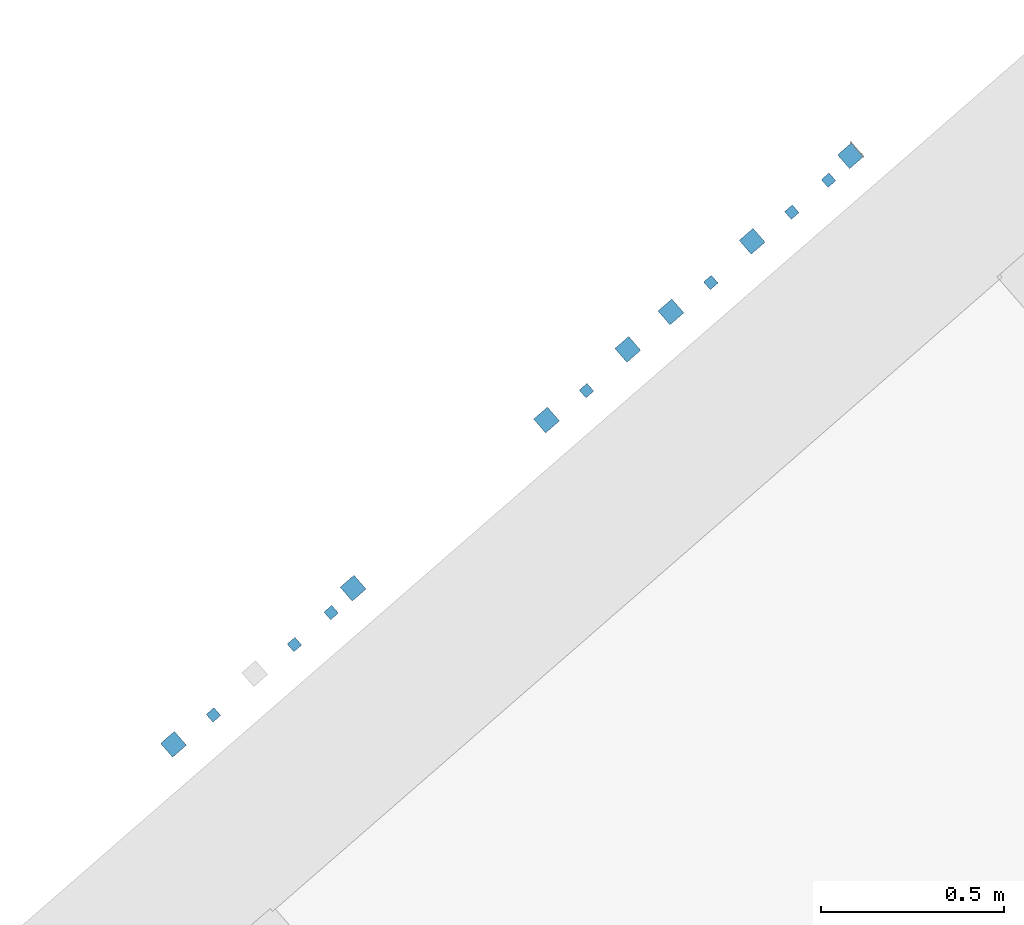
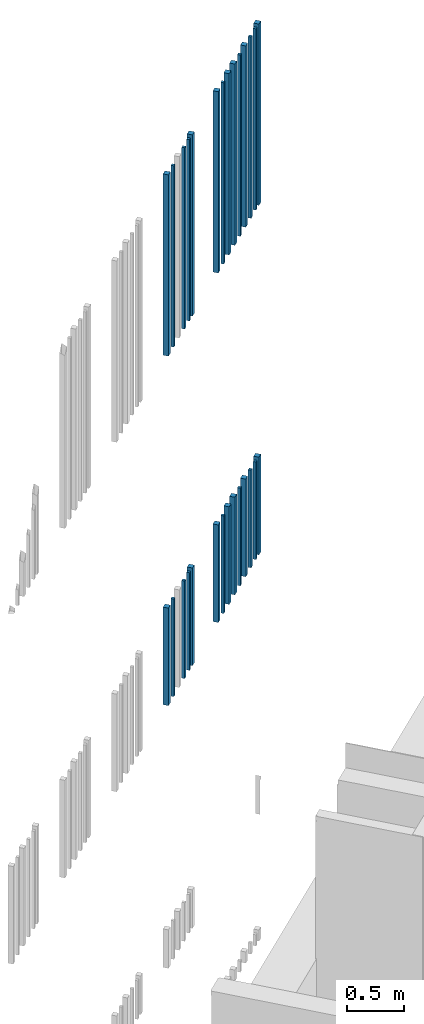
# One storey, part 80 of 124: 28 walls.
"""IFC2X3 building model written with IfcOpenShell, lengths in millimetres."""

from ifc_helpers import new_model, entity, si_unit, converted_unit, derived_unit, money_unit, direction, frame, origin_with_axes, place, context, subcontext, project, spatial, faceted_brep, material, type_object, element, save


model = new_model("IFC2X3")

# Units and contexts
model_context = context("Model", 3, precision=1e-05, world=origin_with_axes(), true_north=direction((0.0, 1.0)))
body_context = subcontext(model_context, "Body", "Model", "MODEL_VIEW")
ifc_project = project(units=[si_unit("LENGTHUNIT", "METRE", prefix="MILLI"), si_unit("AREAUNIT", "SQUARE_METRE"), si_unit("VOLUMEUNIT", "CUBIC_METRE"), converted_unit("PLANEANGLEUNIT", "DEGREE", entity("IfcPlaneAngleMeasure", 0.0174532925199), si_unit("PLANEANGLEUNIT", "RADIAN"), dimensions=[0, 0, 0, 0, 0, 0, 0]), si_unit("SOLIDANGLEUNIT", "STERADIAN"), money_unit("EUR"), converted_unit("TIMEUNIT", "Year", entity("IfcTimeMeasure", 31556926.0), si_unit("TIMEUNIT", "SECOND"), dimensions=[0, 0, 1, 0, 0, 0, 0]), si_unit("MASSUNIT", "GRAM", prefix="KILO"), si_unit("THERMODYNAMICTEMPERATUREUNIT", "DEGREE_CELSIUS"), si_unit("LUMINOUSINTENSITYUNIT", "LUMEN"), si_unit("ENERGYUNIT", "JOULE", prefix="MEGA"), derived_unit("THERMALCONDUCTANCEUNIT", [(si_unit("POWERUNIT", "WATT"), 1), (si_unit("LENGTHUNIT", "METRE"), -1), (si_unit("THERMODYNAMICTEMPERATUREUNIT", "KELVIN"), -1)]), derived_unit("SPECIFICHEATCAPACITYUNIT", [(si_unit("ENERGYUNIT", "JOULE"), 1), (si_unit("MASSUNIT", "GRAM", prefix="KILO"), -1), (si_unit("THERMODYNAMICTEMPERATUREUNIT", "KELVIN"), -1)]), derived_unit("MASSDENSITYUNIT", [(si_unit("MASSUNIT", "GRAM", prefix="KILO"), 1), (si_unit("VOLUMEUNIT", "CUBIC_METRE"), -1)])], contexts=[model_context])

# Site, building, storey
site_placement = place(None, origin_with_axes())
site = spatial("IfcSite", under=ifc_project, at=site_placement, Name="Site", CompositionType="ELEMENT")
building_placement = place(site_placement, origin_with_axes())
building = spatial("IfcBuilding", under=site, at=building_placement, Name="Building", CompositionType="ELEMENT")
storey_placement = place(building_placement, frame((0.0, 0.0, -1615.0), z_axis=(0.0, 0.0, 1.0), x_axis=(1.0, 0.0, 0.0)))
storey = spatial("IfcBuildingStorey", under=building, at=storey_placement, Name="0  korrus", CompositionType="ELEMENT", Elevation=-1615.0)

# Walls
ifc_material = material(Name="Site specified")
wall_type = type_object("IfcWallType", Name="Puitfassaadi ribistik", PredefinedType="NOTDEFINED")
wall_1_placement = place(storey_placement, frame((159367.600758, 108572.557568, 9530.0), z_axis=(0.0, 0.0, 1.0), x_axis=(0.754709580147, 0.656059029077, 0.0)))
element("IfcWall", 1, at=wall_1_placement, inside=storey, type_object=wall_type, material=ifc_material, Name="Site specified", context=body_context, shape_type="Brep", body=[
    faceted_brep([(25.0, 25.0, 1950.0), (25.0, 25.0, 0.0), (-25.0, 25.0, 0.0), (-25.0, 25.0, 1950.0), (25.0, -25.0, 1950.0), (25.0, -25.0, 0.0), (-25.0, -25.0, 0.0), (-25.0, -25.0, 1950.0)], [[[0, 1, 2, 3]], [[4, 5, 1, 0]], [[2, 1, 5, 6]], [[3, 2, 6, 7]], [[4, 0, 3, 7]], [[7, 6, 5, 4]]]),
])
for number, where, z_axis, x_axis, name in (
    (2, (159207.269489, 108418.608579, 9530.0), (0.0, 0.0, 1.0), (0.754709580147, 0.656059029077, 0.0), "Site specified"),
    (3, (159307.645862, 108505.864429, 9530.0), (0.0, 0.0, 1.0), (0.754709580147, 0.656059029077, 0.0), "Site specified"),
):
    element("IfcWall", number, at=place(storey_placement, frame(where, z_axis=z_axis, x_axis=x_axis)), inside=storey, type_object=wall_type, material=ifc_material, Name=name, context=body_context, shape_type="Brep", body=[
        faceted_brep([(14.0, 14.0, 1950.0), (14.0, 14.0, 0.0), (-14.0, 14.0, 0.0), (-14.0, 14.0, 1950.0), (14.0, -14.0, 1950.0), (14.0, -14.0, 0.0), (-14.0, -14.0, 0.0), (-14.0, -14.0, 1950.0)], [[[0, 1, 2, 3]], [[4, 5, 1, 0]], [[2, 1, 5, 6]], [[3, 2, 6, 7]], [[4, 0, 3, 7]], [[7, 6, 5, 4]]]),
    ])
wall_2_placement = place(storey_placement, frame((158986.139604, 108226.383302, 5771.0), z_axis=(0.0, 0.0, 1.0), x_axis=(0.754709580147, 0.656059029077, 0.0)))
element("IfcWall", 4, at=wall_2_placement, inside=storey, type_object=wall_type, material=ifc_material, Name="Site specified", context=body_context, shape_type="Brep", body=[
    faceted_brep([(14.0, 14.0, 1050.0), (14.0, 14.0, 0.0), (-14.0, 14.0, 0.0), (-14.0, 14.0, 1050.0), (14.0, -14.0, 1050.0), (14.0, -14.0, 0.0), (-14.0, -14.0, 0.0), (-14.0, -14.0, 1050.0)], [[[0, 1, 2, 3]], [[4, 5, 1, 0]], [[2, 1, 5, 6]], [[3, 2, 6, 7]], [[4, 0, 3, 7]], [[7, 6, 5, 4]]]),
])
wall_3_placement = place(storey_placement, frame((159367.600758, 108572.557568, 5771.0), z_axis=(0.0, 0.0, 1.0), x_axis=(0.754709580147, 0.656059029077, 0.0)))
element("IfcWall", 5, at=wall_3_placement, inside=storey, type_object=wall_type, material=ifc_material, Name="Site specified", context=body_context, shape_type="Brep", body=[
    faceted_brep([(25.0, 25.0, 1050.0), (25.0, 25.0, 0.0), (-25.0, 25.0, 0.0), (-25.0, 25.0, 1050.0), (25.0, -25.0, 1050.0), (25.0, -25.0, 0.0), (-25.0, -25.0, 0.0), (-25.0, -25.0, 1050.0)], [[[0, 1, 2, 3]], [[4, 5, 1, 0]], [[2, 1, 5, 6]], [[3, 2, 6, 7]], [[4, 0, 3, 7]], [[7, 6, 5, 4]]]),
])
wall_4_placement = place(storey_placement, frame((159207.269489, 108418.608579, 5771.0), z_axis=(0.0, 0.0, 1.0), x_axis=(0.754709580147, 0.656059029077, 0.0)))
element("IfcWall", 6, at=wall_4_placement, inside=storey, type_object=wall_type, material=ifc_material, Name="Site specified", context=body_context, shape_type="Brep", body=[
    faceted_brep([(14.0, 14.0, 1050.0), (14.0, 14.0, 0.0), (-14.0, 14.0, 0.0), (-14.0, 14.0, 1050.0), (14.0, -14.0, 1050.0), (14.0, -14.0, 0.0), (-14.0, -14.0, 0.0), (-14.0, -14.0, 1050.0)], [[[0, 1, 2, 3]], [[4, 5, 1, 0]], [[2, 1, 5, 6]], [[3, 2, 6, 7]], [[4, 0, 3, 7]], [[7, 6, 5, 4]]]),
])
wall_5_placement = place(storey_placement, frame((158877.035281, 108146.115505, 5771.0), z_axis=(0.0, 0.0, 1.0), x_axis=(0.754709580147, 0.656059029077, 0.0)))
element("IfcWall", 7, at=wall_5_placement, inside=storey, type_object=wall_type, material=ifc_material, Name="Site specified", context=body_context, shape_type="Brep", body=[
    faceted_brep([(25.0, 25.0, 1050.0), (25.0, 25.0, 0.0), (-25.0, 25.0, 0.0), (-25.0, 25.0, 1050.0), (25.0, -25.0, 1050.0), (25.0, -25.0, 0.0), (-25.0, -25.0, 0.0), (-25.0, -25.0, 1050.0)], [[[0, 1, 2, 3]], [[4, 5, 1, 0]], [[2, 1, 5, 6]], [[3, 2, 6, 7]], [[4, 0, 3, 7]], [[7, 6, 5, 4]]]),
])
wall_6_placement = place(storey_placement, frame((158877.035281, 108146.115505, 9530.0), z_axis=(0.0, 0.0, 1.0), x_axis=(0.754709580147, 0.656059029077, 0.0)))
element("IfcWall", 8, at=wall_6_placement, inside=storey, type_object=wall_type, material=ifc_material, Name="Site specified", context=body_context, shape_type="Brep", body=[
    faceted_brep([(25.0, 25.0, 1950.0), (25.0, 25.0, 0.0), (-25.0, 25.0, 0.0), (-25.0, 25.0, 1950.0), (25.0, -25.0, 1950.0), (25.0, -25.0, 0.0), (-25.0, -25.0, 0.0), (-25.0, -25.0, 1950.0)], [[[0, 1, 2, 3]], [[4, 5, 1, 0]], [[2, 1, 5, 6]], [[3, 2, 6, 7]], [[4, 0, 3, 7]], [[7, 6, 5, 4]]]),
])
wall_7_placement = place(storey_placement, frame((158986.139604, 108226.383302, 9530.0), z_axis=(0.0, 0.0, 1.0), x_axis=(0.754709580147, 0.656059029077, 0.0)))
element("IfcWall", 9, at=wall_7_placement, inside=storey, type_object=wall_type, material=ifc_material, Name="Site specified", context=body_context, shape_type="Brep", body=[
    faceted_brep([(14.0, 14.0, 1950.0), (14.0, 14.0, 0.0), (-14.0, 14.0, 0.0), (-14.0, 14.0, 1950.0), (14.0, -14.0, 1950.0), (14.0, -14.0, 0.0), (-14.0, -14.0, 0.0), (-14.0, -14.0, 1950.0)], [[[0, 1, 2, 3]], [[4, 5, 1, 0]], [[2, 1, 5, 6]], [[3, 2, 6, 7]], [[4, 0, 3, 7]], [[7, 6, 5, 4]]]),
])
wall_8_placement = place(storey_placement, frame((159307.645862, 108505.864429, 5771.0), z_axis=(0.0, 0.0, 1.0), x_axis=(0.754709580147, 0.656059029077, 0.0)))
element("IfcWall", 10, at=wall_8_placement, inside=storey, type_object=wall_type, material=ifc_material, Name="Site specified", context=body_context, shape_type="Brep", body=[
    faceted_brep([(14.0, 14.0, 1050.0), (14.0, 14.0, 0.0), (-14.0, 14.0, 0.0), (-14.0, 14.0, 1050.0), (14.0, -14.0, 1050.0), (14.0, -14.0, 0.0), (-14.0, -14.0, 0.0), (-14.0, -14.0, 1050.0)], [[[0, 1, 2, 3]], [[4, 5, 1, 0]], [[2, 1, 5, 6]], [[3, 2, 6, 7]], [[4, 0, 3, 7]], [[7, 6, 5, 4]]]),
])
wall_9_placement = place(storey_placement, frame((159098.919896, 108338.996858, 5771.0), z_axis=(0.0, 0.0, 1.0), x_axis=(0.754709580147, 0.656059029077, 0.0)))
element("IfcWall", 11, at=wall_9_placement, inside=storey, type_object=wall_type, material=ifc_material, Name="Site specified", context=body_context, shape_type="Brep", body=[
    faceted_brep([(25.0, 25.0, 1050.0), (25.0, 25.0, 0.0), (-25.0, 25.0, 0.0), (-25.0, 25.0, 1050.0), (25.0, -25.0, 1050.0), (25.0, -25.0, 0.0), (-25.0, -25.0, 0.0), (-25.0, -25.0, 1050.0)], [[[0, 1, 2, 3]], [[4, 5, 1, 0]], [[2, 1, 5, 6]], [[3, 2, 6, 7]], [[4, 0, 3, 7]], [[7, 6, 5, 4]]]),
])
wall_10_placement = place(storey_placement, frame((157627.662113, 107045.476836, 9530.0), z_axis=(0.0, 0.0, 1.0), x_axis=(0.754709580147, 0.656059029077, 0.0)))
element("IfcWall", 12, at=wall_10_placement, inside=storey, type_object=wall_type, material=ifc_material, Name="Site specified", context=body_context, shape_type="Brep", body=[
    faceted_brep([(14.0, 14.0, 1950.0), (14.0, 14.0, 0.0), (-14.0, 14.0, 0.0), (-14.0, 14.0, 1950.0), (14.0, -14.0, 1950.0), (14.0, -14.0, 0.0), (-14.0, -14.0, 0.0), (-14.0, -14.0, 1950.0)], [[[0, 1, 2, 3]], [[4, 5, 1, 0]], [[2, 1, 5, 6]], [[3, 2, 6, 7]], [[4, 0, 3, 7]], [[7, 6, 5, 4]]]),
])
for number, where, z_axis, x_axis, name in (
    (13, (157949.168372, 107324.957962, 5771.0), (0.0, 0.0, 1.0), (0.754709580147, 0.656059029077, 0.0), "Site specified"),
    (14, (157627.662113, 107045.476836, 5771.0), (0.0, 0.0, 1.0), (0.754709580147, 0.656059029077, 0.0), "Site specified"),
):
    element("IfcWall", number, at=place(storey_placement, frame(where, z_axis=z_axis, x_axis=x_axis)), inside=storey, type_object=wall_type, material=ifc_material, Name=name, context=body_context, shape_type="Brep", body=[
        faceted_brep([(14.0, 14.0, 1050.0), (14.0, 14.0, 0.0), (-14.0, 14.0, 0.0), (-14.0, 14.0, 1050.0), (14.0, -14.0, 1050.0), (14.0, -14.0, 0.0), (-14.0, -14.0, 0.0), (-14.0, -14.0, 1050.0)], [[[0, 1, 2, 3]], [[4, 5, 1, 0]], [[2, 1, 5, 6]], [[3, 2, 6, 7]], [[4, 0, 3, 7]], [[7, 6, 5, 4]]]),
    ])
wall_11_placement = place(storey_placement, frame((157518.557791, 106965.209038, 5771.0), z_axis=(0.0, 0.0, 1.0), x_axis=(0.754709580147, 0.656059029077, 0.0)))
element("IfcWall", 15, at=wall_11_placement, inside=storey, type_object=wall_type, material=ifc_material, Name="Site specified", context=body_context, shape_type="Brep", body=[
    faceted_brep([(25.0, 25.0, 1050.0), (25.0, 25.0, 0.0), (-25.0, 25.0, 0.0), (-25.0, 25.0, 1050.0), (25.0, -25.0, 1050.0), (25.0, -25.0, 0.0), (-25.0, -25.0, 0.0), (-25.0, -25.0, 1050.0)], [[[0, 1, 2, 3]], [[4, 5, 1, 0]], [[2, 1, 5, 6]], [[3, 2, 6, 7]], [[4, 0, 3, 7]], [[7, 6, 5, 4]]]),
])
wall_12_placement = place(storey_placement, frame((157848.791998, 107237.702112, 5771.0), z_axis=(0.0, 0.0, 1.0), x_axis=(0.754709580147, 0.656059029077, 0.0)))
element("IfcWall", 16, at=wall_12_placement, inside=storey, type_object=wall_type, material=ifc_material, Name="Site specified", context=body_context, shape_type="Brep", body=[
    faceted_brep([(14.0, 14.0, 1050.0), (14.0, 14.0, 0.0), (-14.0, 14.0, 0.0), (-14.0, 14.0, 1050.0), (14.0, -14.0, 1050.0), (14.0, -14.0, 0.0), (-14.0, -14.0, 0.0), (-14.0, -14.0, 1050.0)], [[[0, 1, 2, 3]], [[4, 5, 1, 0]], [[2, 1, 5, 6]], [[3, 2, 6, 7]], [[4, 0, 3, 7]], [[7, 6, 5, 4]]]),
])
for number, where, z_axis, x_axis, name in (
    (17, (157848.791998, 107237.702112, 9530.0), (0.0, 0.0, 1.0), (0.754709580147, 0.656059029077, 0.0), "Site specified"),
    (18, (157949.168372, 107324.957962, 9530.0), (0.0, 0.0, 1.0), (0.754709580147, 0.656059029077, 0.0), "Site specified"),
):
    element("IfcWall", number, at=place(storey_placement, frame(where, z_axis=z_axis, x_axis=x_axis)), inside=storey, type_object=wall_type, material=ifc_material, Name=name, context=body_context, shape_type="Brep", body=[
        faceted_brep([(14.0, 14.0, 1950.0), (14.0, 14.0, 0.0), (-14.0, 14.0, 0.0), (-14.0, 14.0, 1950.0), (14.0, -14.0, 1950.0), (14.0, -14.0, 0.0), (-14.0, -14.0, 0.0), (-14.0, -14.0, 1950.0)], [[[0, 1, 2, 3]], [[4, 5, 1, 0]], [[2, 1, 5, 6]], [[3, 2, 6, 7]], [[4, 0, 3, 7]], [[7, 6, 5, 4]]]),
    ])
for number, where, z_axis, x_axis, name in (
    (19, (158009.123268, 107391.651101, 9530.0), (0.0, 0.0, 1.0), (0.754709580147, 0.656059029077, 0.0), "Site specified"),
    (20, (157518.557791, 106965.209038, 9530.0), (0.0, 0.0, 1.0), (0.754709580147, 0.656059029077, 0.0), "Site specified"),
):
    element("IfcWall", number, at=place(storey_placement, frame(where, z_axis=z_axis, x_axis=x_axis)), inside=storey, type_object=wall_type, material=ifc_material, Name=name, context=body_context, shape_type="Brep", body=[
        faceted_brep([(25.0, 25.0, 1950.0), (25.0, 25.0, 0.0), (-25.0, 25.0, 0.0), (-25.0, 25.0, 1950.0), (25.0, -25.0, 1950.0), (25.0, -25.0, 0.0), (-25.0, -25.0, 0.0), (-25.0, -25.0, 1950.0)], [[[0, 1, 2, 3]], [[4, 5, 1, 0]], [[2, 1, 5, 6]], [[3, 2, 6, 7]], [[4, 0, 3, 7]], [[7, 6, 5, 4]]]),
    ])
wall_13_placement = place(storey_placement, frame((158009.123268, 107391.651101, 5771.0), z_axis=(0.0, 0.0, 1.0), x_axis=(0.754709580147, 0.656059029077, 0.0)))
element("IfcWall", 21, at=wall_13_placement, inside=storey, type_object=wall_type, material=ifc_material, Name="Site specified", context=body_context, shape_type="Brep", body=[
    faceted_brep([(25.0, 25.0, 1050.0), (25.0, 25.0, 0.0), (-25.0, 25.0, 0.0), (-25.0, 25.0, 1050.0), (25.0, -25.0, 1050.0), (25.0, -25.0, 0.0), (-25.0, -25.0, 0.0), (-25.0, -25.0, 1050.0)], [[[0, 1, 2, 3]], [[4, 5, 1, 0]], [[2, 1, 5, 6]], [[3, 2, 6, 7]], [[4, 0, 3, 7]], [[7, 6, 5, 4]]]),
])
wall_14_placement = place(storey_placement, frame((158537.41548, 107850.888516, 9530.0), z_axis=(0.0, 0.0, 1.0), x_axis=(0.754709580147, 0.656059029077, 0.0)))
element("IfcWall", 22, at=wall_14_placement, inside=storey, type_object=wall_type, material=ifc_material, Name="Site specified", context=body_context, shape_type="Brep", body=[
    faceted_brep([(25.0, 25.0, 1950.0), (25.0, 25.0, 0.0), (-25.0, 25.0, 0.0), (-25.0, 25.0, 1950.0), (25.0, -25.0, 1950.0), (25.0, -25.0, 0.0), (-25.0, -25.0, 0.0), (-25.0, -25.0, 1950.0)], [[[0, 1, 2, 3]], [[4, 5, 1, 0]], [[2, 1, 5, 6]], [[3, 2, 6, 7]], [[4, 0, 3, 7]], [[7, 6, 5, 4]]]),
])
wall_15_placement = place(storey_placement, frame((158537.41548, 107850.888516, 5771.0), z_axis=(0.0, 0.0, 1.0), x_axis=(0.754709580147, 0.656059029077, 0.0)))
element("IfcWall", 23, at=wall_15_placement, inside=storey, type_object=wall_type, material=ifc_material, Name="Site specified", context=body_context, shape_type="Brep", body=[
    faceted_brep([(25.0, 25.0, 1050.0), (25.0, 25.0, 0.0), (-25.0, 25.0, 0.0), (-25.0, 25.0, 1050.0), (25.0, -25.0, 1050.0), (25.0, -25.0, 0.0), (-25.0, -25.0, 0.0), (-25.0, -25.0, 1050.0)], [[[0, 1, 2, 3]], [[4, 5, 1, 0]], [[2, 1, 5, 6]], [[3, 2, 6, 7]], [[4, 0, 3, 7]], [[7, 6, 5, 4]]]),
])
wall_16_placement = place(storey_placement, frame((158646.519803, 107931.156313, 5771.0), z_axis=(0.0, 0.0, 1.0), x_axis=(0.754709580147, 0.656059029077, 0.0)))
element("IfcWall", 24, at=wall_16_placement, inside=storey, type_object=wall_type, material=ifc_material, Name="Site specified", context=body_context, shape_type="Brep", body=[
    faceted_brep([(14.0, 14.0, 1050.0), (14.0, 14.0, 0.0), (-14.0, 14.0, 0.0), (-14.0, 14.0, 1050.0), (14.0, -14.0, 1050.0), (14.0, -14.0, 0.0), (-14.0, -14.0, 0.0), (-14.0, -14.0, 1050.0)], [[[0, 1, 2, 3]], [[4, 5, 1, 0]], [[2, 1, 5, 6]], [[3, 2, 6, 7]], [[4, 0, 3, 7]], [[7, 6, 5, 4]]]),
])
wall_17_placement = place(storey_placement, frame((158759.300095, 108043.769869, 5771.0), z_axis=(0.0, 0.0, 1.0), x_axis=(0.754709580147, 0.656059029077, 0.0)))
element("IfcWall", 25, at=wall_17_placement, inside=storey, type_object=wall_type, material=ifc_material, Name="Site specified", context=body_context, shape_type="Brep", body=[
    faceted_brep([(25.0, 25.0, 1050.0), (25.0, 25.0, 0.0), (-25.0, 25.0, 0.0), (-25.0, 25.0, 1050.0), (25.0, -25.0, 1050.0), (25.0, -25.0, 0.0), (-25.0, -25.0, 0.0), (-25.0, -25.0, 1050.0)], [[[0, 1, 2, 3]], [[4, 5, 1, 0]], [[2, 1, 5, 6]], [[3, 2, 6, 7]], [[4, 0, 3, 7]], [[7, 6, 5, 4]]]),
])
wall_18_placement = place(storey_placement, frame((158646.519803, 107931.156313, 9530.0), z_axis=(0.0, 0.0, 1.0), x_axis=(0.754709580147, 0.656059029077, 0.0)))
element("IfcWall", 26, at=wall_18_placement, inside=storey, type_object=wall_type, material=ifc_material, Name="Site specified", context=body_context, shape_type="Brep", body=[
    faceted_brep([(14.0, 14.0, 1950.0), (14.0, 14.0, 0.0), (-14.0, 14.0, 0.0), (-14.0, 14.0, 1950.0), (14.0, -14.0, 1950.0), (14.0, -14.0, 0.0), (-14.0, -14.0, 0.0), (-14.0, -14.0, 1950.0)], [[[0, 1, 2, 3]], [[4, 5, 1, 0]], [[2, 1, 5, 6]], [[3, 2, 6, 7]], [[4, 0, 3, 7]], [[7, 6, 5, 4]]]),
])
for number, where, z_axis, x_axis, name in (
    (27, (158759.300095, 108043.769869, 9530.0), (0.0, 0.0, 1.0), (0.754709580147, 0.656059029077, 0.0), "Site specified"),
    (28, (159098.919896, 108338.996858, 9530.0), (0.0, 0.0, 1.0), (0.754709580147, 0.656059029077, 0.0), "Site specified"),
):
    element("IfcWall", number, at=place(storey_placement, frame(where, z_axis=z_axis, x_axis=x_axis)), inside=storey, type_object=wall_type, material=ifc_material, Name=name, context=body_context, shape_type="Brep", body=[
        faceted_brep([(25.0, 25.0, 1950.0), (25.0, 25.0, 0.0), (-25.0, 25.0, 0.0), (-25.0, 25.0, 1950.0), (25.0, -25.0, 1950.0), (25.0, -25.0, 0.0), (-25.0, -25.0, 0.0), (-25.0, -25.0, 1950.0)], [[[0, 1, 2, 3]], [[4, 5, 1, 0]], [[2, 1, 5, 6]], [[3, 2, 6, 7]], [[4, 0, 3, 7]], [[7, 6, 5, 4]]]),
    ])

save(model, "model.ifc")
